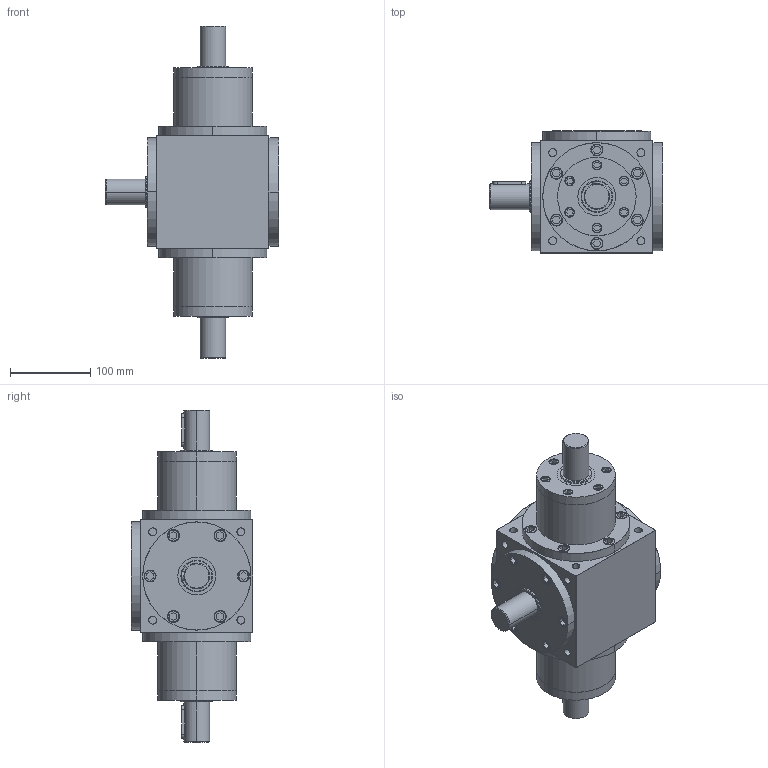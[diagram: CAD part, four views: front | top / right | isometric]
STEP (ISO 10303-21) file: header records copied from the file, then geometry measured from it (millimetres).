
FILE_DESCRIPTION (( 'STEP AP203' ), '1' );
FILE_NAME ('VSAF14-1£º1-H.step', '2018-07-14T08:15:36', ( 'IT Division' ), ( 'IT' ), 'SwSTEP 2.0', 'SolidWorks 2016', '' );
FILE_SCHEMA (( 'CONFIG_CONTROL_DESIGN' ));
Length unit declared in the file: millimetre
Products named in the file (1): VSAF14-1ㄩ1-H
Bounding box: 216 x 152 x 414 mm (x, y, z)
Volume: 4798227.1 mm3; surface area: 251030.8 mm2
Topology: 2 solids, 2 shells, 885 faces, 1975 edges, 1230 vertices
Faces by surface type: plane 435, cylinder 336, torus 94, cone 12, sphere 8
Entity records: 24694 total; most frequent: CARTESIAN_POINT 4675, DIRECTION 4367, ORIENTED_EDGE 3934, EDGE_CURVE 1967, AXIS2_PLACEMENT_3D 1648, VERTEX_POINT 1230, LINE 1071, VECTOR 1071
